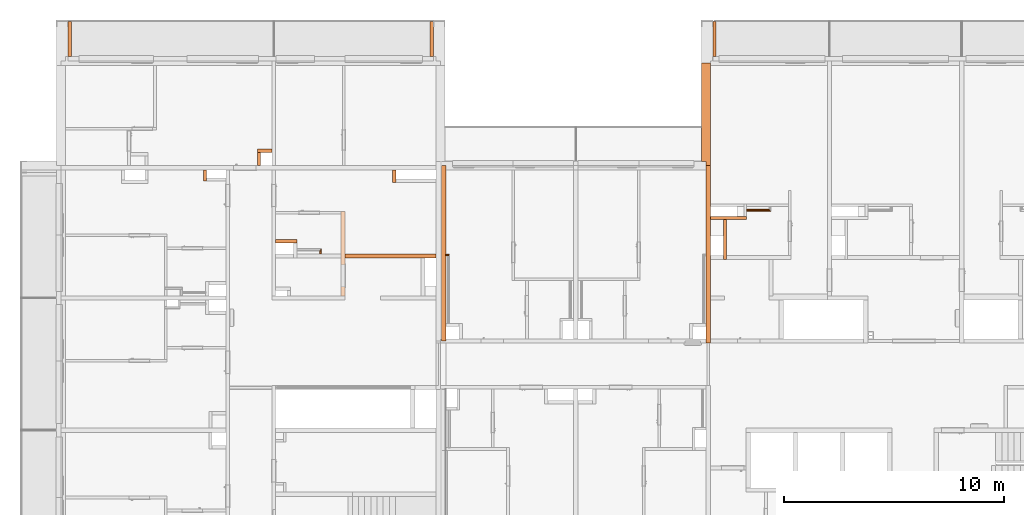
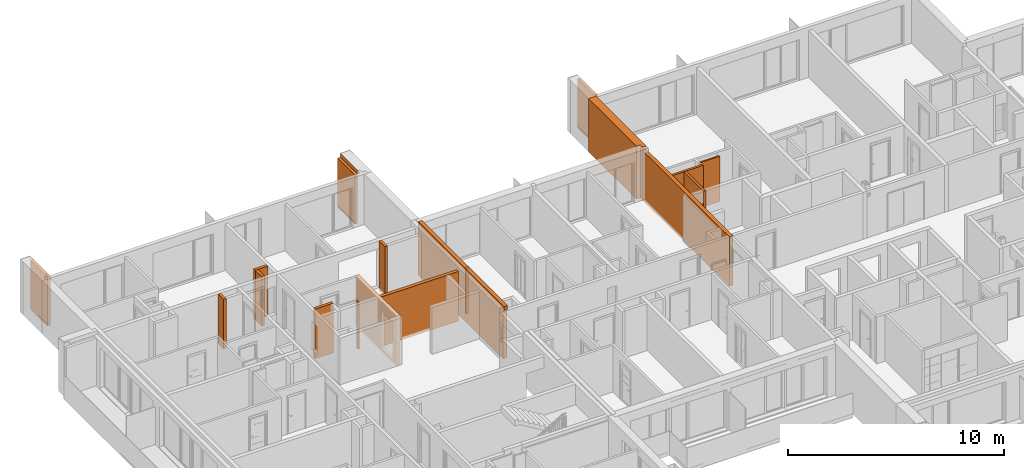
# One storey, part 62 of 66: 17 proxies, 1 opening, plus 1 element that does not belong to this part.
"""IFC2X3 building model written with IfcOpenShell, lengths in millimetres."""

from ifc_helpers import new_model, entity, si_unit, converted_unit, derived_unit, money_unit, direction, frame, origin_with_axes, origin_2d_with_axis, place, context, subcontext, project, spatial, rectangle, extrude, faceted_brep, material, material_list, type_object, element, save


model = new_model("IFC2X3")

# Units and contexts
model_context = context("Model", 3, precision=0.01, world=origin_with_axes(), true_north=direction((0.34421633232, 0.938890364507)))
body_context = subcontext(model_context, "Body", "Model", "MODEL_VIEW")
ifc_project = project(units=[si_unit("LENGTHUNIT", "METRE", prefix="MILLI"), si_unit("AREAUNIT", "SQUARE_METRE"), si_unit("VOLUMEUNIT", "CUBIC_METRE"), converted_unit("PLANEANGLEUNIT", "DEGREE", entity("IfcPlaneAngleMeasure", 0.0174532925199), si_unit("PLANEANGLEUNIT", "RADIAN"), dimensions=[0, 0, 0, 0, 0, 0, 0]), si_unit("SOLIDANGLEUNIT", "STERADIAN"), money_unit("USD"), converted_unit("TIMEUNIT", "Year", entity("IfcTimeMeasure", 31556926.0), si_unit("TIMEUNIT", "SECOND"), dimensions=[0, 0, 1, 0, 0, 0, 0]), si_unit("MASSUNIT", "GRAM", prefix="KILO"), si_unit("THERMODYNAMICTEMPERATUREUNIT", "DEGREE_CELSIUS"), si_unit("LUMINOUSINTENSITYUNIT", "LUMEN"), si_unit("ENERGYUNIT", "JOULE", prefix="MEGA"), derived_unit("THERMALCONDUCTANCEUNIT", [(si_unit("POWERUNIT", "WATT"), 1), (si_unit("LENGTHUNIT", "METRE"), -1), (si_unit("THERMODYNAMICTEMPERATUREUNIT", "KELVIN"), -1)]), derived_unit("SPECIFICHEATCAPACITYUNIT", [(si_unit("ENERGYUNIT", "JOULE"), 1), (si_unit("MASSUNIT", "GRAM", prefix="KILO"), -1), (si_unit("THERMODYNAMICTEMPERATUREUNIT", "KELVIN"), -1)]), derived_unit("MASSDENSITYUNIT", [(si_unit("MASSUNIT", "GRAM", prefix="KILO"), 1), (si_unit("VOLUMEUNIT", "CUBIC_METRE"), -1)])], contexts=[model_context])

# Site, building, storey
site_placement = place(None, origin_with_axes())
site = spatial("IfcSite", under=ifc_project, at=site_placement, Name="USTRONIE MORSKIE", CompositionType="ELEMENT")
building_placement = place(site_placement, origin_with_axes())
building = spatial("IfcBuilding", under=site, at=building_placement, Name="Budynek", CompositionType="ELEMENT")
storey_placement = place(building_placement, frame((0.0, 0.0, 10000.0), z_axis=(0.0, 0.0, 1.0), x_axis=(1.0, 0.0, 0.0)))
storey = spatial("IfcBuildingStorey", under=building, at=storey_placement, Name="PIĘTRO 3", CompositionType="ELEMENT", Elevation=10000.0)

# Proxies
ifc_material_1 = material(Name="Bloczki silikatowe")
building_element_proxy_type_1 = type_object("IfcBuildingElementProxyType", Name="Bloczki silikatowe 120", PredefinedType="NOTDEFINED")
proxy_1_placement = place(storey_placement, frame((380077.924326, 742431.199937, -160.0), z_axis=(0.0, 0.0, 1.0), x_axis=(0.0, -1.0, 0.0)))
element("IfcBuildingElementProxy", 1, at=proxy_1_placement, inside=storey, type_object=building_element_proxy_type_1, material=ifc_material_1, Name="SW-04", context=body_context, shape_type="Brep", body=[
    faceted_brep([(1890.00090117, 60.0, 0.0), (1890.00090117, -60.0, 0.0), (59.9999999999, -60.0, 0.0), (59.9999999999, 60.0, 0.0), (1890.00090117, 60.0, 2800.0), (1890.00090117, -60.0, 2800.0), (59.9999999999, -60.0, 2800.0), (59.9999999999, 60.0, 2800.0)], [[[0, 1, 2, 3]], [[1, 0, 4, 5]], [[1, 5, 6, 2]], [[7, 3, 2, 6]], [[4, 0, 3, 7]], [[5, 4, 7, 6]]]),
])
proxy_2_placement = place(storey_placement, frame((379317.920919, 742431.199937, -160.0), z_axis=(0.0, 0.0, 1.0), x_axis=(1.0, 0.0, 0.0)))
element("IfcBuildingElementProxy", 2, at=proxy_2_placement, inside=storey, type_object=building_element_proxy_type_1, material=ifc_material_1, Name="SW-04", context=body_context, shape_type="Brep", body=[
    faceted_brep([(1740.0, 59.9999999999, 0.0), (1740.0, -59.9999999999, 0.0), (100.0, -59.9999999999, 0.0), (100.0, 59.9999999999, 0.0), (1740.0, 59.9999999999, 2800.0), (1740.0, -59.9999999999, 2800.0), (100.0, -59.9999999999, 2800.0), (100.0, 59.9999999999, 2800.0)], [[[0, 1, 2, 3]], [[1, 0, 4, 5]], [[1, 5, 6, 2]], [[7, 3, 2, 6]], [[4, 0, 3, 7]], [[5, 4, 7, 6]]]),
])
ifc_material_2 = material(Name="Tynk zewnętrzny")
ifc_material_3 = material(Name="Wełna ELEW")
ifc_material_4 = material(Name="Beton konstrukcyjny B25")
ifc_material_list_1 = material_list([ifc_material_2, ifc_material_3, ifc_material_4])
building_element_proxy_type_2 = type_object("IfcBuildingElementProxyType", Name="20+20 410", PredefinedType="NOTDEFINED")
proxy_3_placement = place(storey_placement, frame((379317.920919, 744701.213046, -160.0), z_axis=(0.0, 0.0, 1.0), x_axis=(0.0, 1.0, 0.0)))
element("IfcBuildingElementProxy", 3, at=proxy_3_placement, inside=storey, type_object=building_element_proxy_type_2, material=ifc_material_list_1, Name="SZ-01", context=body_context, shape_type="Brep", body=[
    faceted_brep([(1899.98108936, 300.0, 110.0), (1899.98108936, 300.0, 0.0), (4749.98599028, 300.0, 0.0), (4749.98599028, 300.0, 3000.0), (309.986276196, 300.0, 3000.0), (309.986276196, 300.0, 110.0), (1899.98108936, 310.0, 110.0), (1899.98108936, 310.0, 0.0), (4749.98599028, 310.0, 0.0), (4749.98599028, 310.0, 3000.0), (309.986276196, 310.0, 3000.0), (309.986276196, 310.0, 110.0)], [[[0, 1, 2, 3, 4, 5]], [[0, 6, 7, 1]], [[1, 7, 8, 2]], [[2, 8, 9, 3]], [[9, 10, 4, 3]], [[11, 5, 4, 10]], [[0, 5, 11, 6]], [[6, 11, 10, 9, 8, 7]]]),
    faceted_brep([(4749.98599028, 300.0, 3000.0), (299.986276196, 300.0, 3000.0), (299.986276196, 100.0, 3000.0), (4749.98599028, 100.0, 3000.0), (299.986276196, 300.0, 0.0), (4749.98599028, 300.0, 0.0), (299.986276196, 100.0, 0.0), (4749.98599028, 100.0, 0.0)], [[[0, 1, 2, 3]], [[4, 1, 0, 5]], [[6, 2, 1, 4]], [[3, 2, 6, 7]], [[7, 5, 0, 3]], [[7, 6, 4, 5]]]),
    faceted_brep([(99.9862761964, 100.0, 3000.0), (99.9862761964, -100.0, 3000.0), (4749.98599028, -100.0, 3000.0), (4749.98599028, 100.0, 3000.0), (99.9862761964, -100.0, 2800.0), (99.9862761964, 100.0, 2800.0), (100.000114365, -100.0, 2800.0), (100.000114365, -100.0, 0.0), (4749.98599028, -100.0, 0.0), (4749.98599028, 100.0, 0.0), (99.999885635, 100.0, 0.0), (99.999885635, 100.0, 2800.0)], [[[0, 1, 2, 3]], [[4, 1, 0, 5]], [[1, 4, 6, 7, 8, 2]], [[9, 3, 2, 8]], [[5, 0, 3, 9, 10, 11]], [[4, 5, 11, 6]], [[7, 6, 11, 10]], [[7, 10, 9, 8]]]),
])
building_element_proxy_type_3 = type_object("IfcBuildingElementProxyType", Name="Bloczki silikatowe 180", PredefinedType="NOTDEFINED")
proxy_4_placement = place(storey_placement, frame((367067.920919, 740711.179476, -160.0), z_axis=(0.0, 0.0, 1.0), x_axis=(-1.0, 0.0, 0.0)))
element("IfcBuildingElementProxy", 4, at=proxy_4_placement, inside=storey, type_object=building_element_proxy_type_3, material=ifc_material_1, Name="SW-02", context=body_context, shape_type="Brep", body=[
    faceted_brep([(100.0, -90.0, 0.0), (4220.00004519, -90.0, 0.0), (4220.00004519, -90.0, 2800.0), (100.0, -90.0, 2800.0), (100.0, 90.0, 0.0), (4220.00004519, 90.0, 0.0), (4220.00004519, 90.0, 2800.0), (100.0, 90.0, 2800.0)], [[[0, 1, 2, 3]], [[4, 5, 1, 0]], [[5, 6, 2, 1]], [[3, 2, 6, 7]], [[0, 3, 7, 4]], [[7, 6, 5, 4]]]),
])

# Proxy, opening
proxy_5_placement = place(storey_placement, frame((362757.920874, 742661.199128, -160.0), z_axis=(0.0, 0.0, 1.0), x_axis=(0.0, -1.0, 0.0)))
proxy_5 = element("IfcBuildingElementProxy", 5, at=proxy_5_placement, inside=storey, type_object=building_element_proxy_type_3, material=ifc_material_1, Name="SW-02", context=body_context, shape_type="Brep", body=[
    faceted_brep([(-59.9999999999, -90.0, 2800.0), (3760.00009205, -90.0, 2800.0), (3760.00009205, 90.0, 2800.0), (-59.9999999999, 90.0, 2800.0), (-59.9999999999, -90.0, 0.0), (3760.00009205, -90.0, 0.0), (3760.00009205, 90.0, 0.0), (-59.9999999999, 90.0, 0.0)], [[[0, 1, 2, 3]], [[4, 5, 1, 0]], [[6, 2, 1, 5]], [[3, 2, 6, 7]], [[7, 4, 0, 3]], [[7, 6, 5, 4]]]),
])
opening_placement = place(proxy_5_placement, frame((2850.01965208, 0.0, 160.0), z_axis=(0.0, 0.0, 1.0), x_axis=(1.0, 0.0, 0.0)))
element("IfcOpeningElement", 6, at=opening_placement, cuts=proxy_5, Name="Dw.2", context=body_context, shape_type="SweptSolid", body=[
    extrude(rectangle(XDim=1020.0, YDim=2120.0, at=origin_2d_with_axis()), frame((0.0, 180.0, 1060.0), z_axis=(0.0, 1.0, 0.0), x_axis=(-1.0, 0.0, 0.0)), (0.0, 0.0, -1.0), 540.0),
    extrude(rectangle(XDim=1094.0, YDim=2227.0, at=origin_2d_with_axis()), frame((0.0, 90.0, 1113.5), z_axis=(0.0, 1.0, 0.0), x_axis=(-1.0, 0.0, 0.0)), (0.0, 0.0, 1.0), 180.0),
])

# Proxies
ifc_material_5 = material(Name="Płyta GK")
ifc_material_6 = material(Name="-Pustka powietrzna")
ifc_material_list_2 = material_list([ifc_material_5, ifc_material_5, ifc_material_6])
building_element_proxy_type_4 = type_object("IfcBuildingElementProxyType", Name="330-SD GK 2-warstwy 75", PredefinedType="NOTDEFINED")
proxy_6_placement = place(storey_placement, frame((361742.922714, 741001.179476, -180.0), z_axis=(0.0, 0.0, 1.0), x_axis=(0.0, -1.0, 0.0)))
element("IfcBuildingElementProxy", 7, at=proxy_6_placement, inside=storey, type_object=building_element_proxy_type_4, material=ifc_material_list_2, Name="Ściana-009", context=body_context, shape_type="Brep", body=[
    faceted_brep([(200.0, 25.0, 165.0), (-12.5, 25.0, 165.0), (-12.5, 25.0, 2820.0), (200.0, 25.0, 2820.0), (-12.5, 12.5, 165.0), (200.0, 12.5, 165.0), (-12.5, 12.5, 2820.0), (200.0, 12.5, 2820.0)], [[[0, 1, 2, 3]], [[4, 1, 0, 5]], [[1, 4, 6, 2]], [[6, 7, 3, 2]], [[5, 0, 3, 7]], [[4, 5, 7, 6]]]),
    faceted_brep([(200.0, 12.5, 165.0), (0.0, 12.5, 165.0), (0.0, 12.5, 2820.0), (200.0, 12.5, 2820.0), (0.0, 0.0, 165.0), (200.0, 0.0, 165.0), (0.0, 0.0, 2820.0), (200.0, 0.0, 2820.0)], [[[0, 1, 2, 3]], [[4, 1, 0, 5]], [[1, 4, 6, 2]], [[6, 7, 3, 2]], [[5, 0, 3, 7]], [[4, 5, 7, 6]]]),
    faceted_brep([(200.0, 0.0, 180.0), (50.0, 0.0, 180.0), (50.0, 0.0, 2820.0), (200.0, 0.0, 2820.0), (50.0, -50.0, 180.0), (200.0, -50.0, 180.0), (50.0, -50.0, 2820.0), (200.0, -50.0, 2820.0)], [[[0, 1, 2, 3]], [[4, 1, 0, 5]], [[1, 4, 6, 2]], [[6, 7, 3, 2]], [[5, 0, 3, 7]], [[4, 5, 7, 6]]]),
])
proxy_7_placement = place(storey_placement, frame((382132.920919, 742771.199021, -160.0), z_axis=(0.0, 0.0, 1.0), x_axis=(-1.0, 0.0, 0.0)))
element("IfcBuildingElementProxy", 8, at=proxy_7_placement, inside=storey, type_object=building_element_proxy_type_4, material=ifc_material_list_2, Name="Ściana-009", context=body_context, shape_type="Brep", body=[
    faceted_brep([(-25.0, 25.0, 145.0), (-25.0, 12.5, 145.0), (-25.0, 12.5, 2710.0), (-25.0, 25.0, 2710.0), (1075.0, 12.5, 145.0), (1075.0, 25.0, 145.0), (1075.0, 12.5, 2710.0), (1075.0, 25.0, 2710.0)], [[[0, 1, 2, 3]], [[4, 1, 0, 5]], [[1, 4, 6, 2]], [[6, 7, 3, 2]], [[5, 0, 3, 7]], [[4, 5, 7, 6]]]),
    faceted_brep([(-12.5, 12.5, 145.0), (-12.5, 0.0, 145.0), (-12.5, 0.0, 2710.0), (-12.5, 12.5, 2710.0), (1075.0, 0.0, 145.0), (1075.0, 12.5, 145.0), (1075.0, 0.0, 2710.0), (1075.0, 12.5, 2710.0)], [[[0, 1, 2, 3]], [[4, 1, 0, 5]], [[1, 4, 6, 2]], [[6, 7, 3, 2]], [[5, 0, 3, 7]], [[4, 5, 7, 6]]]),
    faceted_brep([(0.0, 0.0, 160.0), (0.0, -50.0, 160.0), (0.0, -50.0, 2710.0), (0.0, 0.0, 2710.0), (1075.0, -50.0, 160.0), (1075.0, 0.0, 160.0), (1075.0, -50.0, 2710.0), (1075.0, 0.0, 2710.0)], [[[0, 1, 2, 3]], [[4, 1, 0, 5]], [[1, 4, 6, 2]], [[6, 7, 3, 2]], [[5, 0, 3, 7]], [[4, 5, 7, 6]]]),
])
proxy_8_placement = place(storey_placement, frame((367317.920919, 740771.202288, -180.0), z_axis=(0.0, 0.0, 1.0), x_axis=(1.0, 0.0, 0.0)))
element("IfcBuildingElementProxy", 9, at=proxy_8_placement, inside=storey, type_object=building_element_proxy_type_4, material=ifc_material_list_2, Name="Ściana-009", context=body_context, shape_type="Brep", body=[
    faceted_brep([(254.977879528, 12.5, 165.0), (254.977879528, 25.0, 165.0), (254.977879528, 25.0, 2820.0), (254.977879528, 12.5, 2820.0), (100.0, 25.0, 165.0), (100.0, 12.5, 165.0), (100.0, 25.0, 2820.0), (100.0, 12.5, 2820.0)], [[[0, 1, 2, 3]], [[4, 1, 0, 5]], [[1, 4, 6, 2]], [[2, 6, 7, 3]], [[5, 0, 3, 7]], [[4, 5, 7, 6]]]),
    faceted_brep([(242.477879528, 0.0, 165.0), (242.477879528, 12.5, 165.0), (242.477879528, 12.5, 2820.0), (242.477879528, 0.0, 2820.0), (100.0, 12.5, 165.0), (100.0, 0.0, 165.0), (100.0, 12.5, 2820.0), (100.0, 0.0, 2820.0)], [[[0, 1, 2, 3]], [[4, 1, 0, 5]], [[1, 4, 6, 2]], [[2, 6, 7, 3]], [[5, 0, 3, 7]], [[4, 5, 7, 6]]]),
    faceted_brep([(229.977879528, -50.0, 180.0), (229.977879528, 0.0, 180.0), (229.977879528, 0.0, 2820.0), (229.977879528, -50.0, 2820.0), (100.0, 0.0, 180.0), (100.0, -50.0, 180.0), (100.0, 0.0, 2820.0), (100.0, -50.0, 2820.0)], [[[0, 1, 2, 3]], [[4, 1, 0, 5]], [[1, 4, 6, 2]], [[2, 6, 7, 3]], [[5, 0, 3, 7]], [[4, 5, 7, 6]]]),
])
building_element_proxy_type_5 = type_object("IfcBuildingElementProxyType", Name="Bloczki silikatowe 150", PredefinedType="NOTDEFINED")
proxy_9_placement = place(storey_placement, frame((365097.901749, 744141.199036, -160.0), z_axis=(0.0, 0.0, 1.0), x_axis=(0.0, 1.0, 0.0)))
element("IfcBuildingElementProxy", 10, at=proxy_9_placement, inside=storey, type_object=building_element_proxy_type_5, material=ifc_material_1, Name="SW-03", context=body_context, shape_type="Brep", body=[
    faceted_brep([(459.999999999, 90.0, 0.0), (459.999999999, -60.0, 0.0), (-90.0, -60.0, 0.0), (-90.0, 90.0, 0.0), (459.999999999, 90.0, 2800.0), (459.999999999, -60.0, 2800.0), (-90.0, -60.0, 2800.0), (-90.0, 90.0, 2800.0)], [[[0, 1, 2, 3]], [[1, 0, 4, 5]], [[1, 5, 6, 2]], [[7, 3, 2, 6]], [[4, 0, 3, 7]], [[5, 4, 7, 6]]]),
])
proxy_10_placement = place(storey_placement, frame((356492.920018, 744701.199973, -160.0), z_axis=(0.0, 0.0, 1.0), x_axis=(0.0, -1.0, 0.0)))
element("IfcBuildingElementProxy", 11, at=proxy_10_placement, inside=storey, type_object=building_element_proxy_type_5, material=ifc_material_1, Name="SW-03", context=body_context, shape_type="Brep", body=[
    faceted_brep([(600.000936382, -75.0, 2800.0), (600.000936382, 75.0, 2800.0), (100.000936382, 75.0, 2800.0), (100.000936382, -75.0, 2800.0), (600.000936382, -75.0, 0.0), (600.000936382, 75.0, 0.0), (100.000936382, 75.0, 0.0), (100.000936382, -75.0, 0.0)], [[[0, 1, 2, 3]], [[1, 0, 4, 5]], [[1, 5, 6, 2]], [[7, 3, 2, 6]], [[4, 0, 3, 7]], [[5, 4, 7, 6]]]),
])
proxy_11_placement = place(storey_placement, frame((359617.921834, 745476.199937, -160.0), z_axis=(0.0, 0.0, 1.0), x_axis=(-1.0, 0.0, 0.0)))
element("IfcBuildingElementProxy", 12, at=proxy_11_placement, inside=storey, type_object=building_element_proxy_type_5, material=ifc_material_1, Name="SW-03", context=body_context, shape_type="Brep", body=[
    faceted_brep([(750.000084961, -75.0, 2800.0), (750.000084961, 75.0, 2800.0), (80.0009363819, 75.0, 2800.0), (80.0009363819, -75.0, 2800.0), (750.000084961, -75.0, 0.0), (750.000084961, 75.0, 0.0), (80.0009363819, 75.0, 0.0), (80.0009363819, -75.0, 0.0)], [[[0, 1, 2, 3]], [[1, 0, 4, 5]], [[1, 5, 6, 2]], [[7, 3, 2, 6]], [[4, 0, 3, 7]], [[5, 4, 7, 6]]]),
])
proxy_12_placement = place(storey_placement, frame((358942.921749, 745476.199937, -160.0), z_axis=(0.0, 0.0, 1.0), x_axis=(0.0, -1.0, 0.0)))
element("IfcBuildingElementProxy", 13, at=proxy_12_placement, inside=storey, type_object=building_element_proxy_type_5, material=ifc_material_1, Name="SW-03", context=body_context, shape_type="Brep", body=[
    faceted_brep([(675.00090117, -74.9999999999, 2800.0), (675.00090117, 75.0000000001, 2800.0), (75.0, 75.0, 2800.0), (75.0, -75.0, 2800.0), (675.00090117, -74.9999999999, 0.0), (675.00090117, 75.0000000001, 0.0), (75.0, 75.0, 0.0), (75.0, -75.0, 0.0)], [[[0, 1, 2, 3]], [[1, 0, 4, 5]], [[1, 5, 6, 2]], [[7, 3, 2, 6]], [[4, 0, 3, 7]], [[5, 4, 7, 6]]]),
])
proxy_13_placement = place(storey_placement, frame((360592.922714, 741376.180377, -160.0), z_axis=(0.0, 0.0, 1.0), x_axis=(-1.0, 0.0, 0.0)))
element("IfcBuildingElementProxy", 14, at=proxy_13_placement, inside=storey, type_object=building_element_proxy_type_5, material=ifc_material_1, Name="SW-03", context=body_context, shape_type="Brep", body=[
    faceted_brep([(895.001816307, -75.0, 2800.0), (895.001816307, 75.0, 2800.0), (-75.0, 75.0, 2800.0), (-75.0, -75.0, 2800.0), (895.001816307, -75.0, 0.0), (895.001816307, 75.0, 0.0), (-75.0, 75.0, 0.0), (-75.0, -75.0, 0.0)], [[[0, 1, 2, 3]], [[1, 0, 4, 5]], [[1, 5, 6, 2]], [[7, 3, 2, 6]], [[4, 0, 3, 7]], [[5, 4, 7, 6]]]),
])
building_element_proxy_type_6 = type_object("IfcBuildingElementProxyType", Name="Beton konstrukcyjny B25 200", PredefinedType="NOTDEFINED")
proxy_14_placement = place(storey_placement, frame((367317.920919, 744701.199036, -160.0), z_axis=(0.0, 0.0, 1.0), x_axis=(0.0, -1.0, 0.0)))
element("IfcBuildingElementProxy", 15, at=proxy_14_placement, inside=storey, type_object=building_element_proxy_type_6, material=ifc_material_4, Name="SW-01", context=body_context, shape_type="Brep", body=[
    faceted_brep([(7850.0, 100.0, 2800.0), (7770.0, 100.0, 2800.0), (7770.0, 100.0, 0.0), (-100.000400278, 100.0, 0.0), (-100.000400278, 100.0, 3000.0), (7850.0, 100.0, 3000.0), (7770.0, -100.0, 2800.0), (7850.0, -100.0, 2800.0), (7770.0, -100.0, 0.0), (-100.000171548, -100.0, 0.0), (-100.000171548, -100.0, 3000.0), (7850.0, -100.0, 3000.0)], [[[0, 1, 2, 3, 4, 5]], [[6, 1, 0, 7]], [[8, 2, 1, 6]], [[3, 2, 8, 9]], [[9, 10, 4, 3]], [[4, 10, 11, 5]], [[11, 7, 0, 5]], [[8, 6, 7, 11, 10, 9]]]),
])
proxy_15_placement = place(storey_placement, frame((379317.920919, 744701.213046, -160.0), z_axis=(0.0, 0.0, 1.0), x_axis=(0.0, -1.0, 0.0)))
element("IfcBuildingElementProxy", 16, at=proxy_15_placement, inside=storey, type_object=building_element_proxy_type_6, material=ifc_material_4, Name="SW-01", context=body_context, shape_type="Brep", body=[
    faceted_brep([(-100.000114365, 100.0, 0.0), (7930.01400972, 100.0, 0.0), (7930.01400972, -100.0, 0.0), (-99.999885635, -100.0, 0.0), (-100.000114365, 100.0, 2800.0), (7930.01400972, 100.0, 2800.0), (7930.01400972, -100.0, 2800.0), (-99.999885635, -100.0, 2800.0)], [[[0, 1, 2, 3]], [[4, 5, 1, 0]], [[6, 2, 1, 5]], [[3, 2, 6, 7]], [[7, 4, 0, 3]], [[7, 6, 5, 4]]]),
])
ifc_material_7 = material(Name="Laminat")
building_element_proxy_type_7 = type_object("IfcBuildingElementProxyType", Name="Laminat 150", PredefinedType="NOTDEFINED")
proxy_16_placement = place(storey_placement, frame((350353.053848, 749761.196429, -160.0), z_axis=(0.0, 0.0, 1.0), x_axis=(9.14543762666e-06, 0.999999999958, 0.0)))
element("IfcBuildingElementProxy", 17, at=proxy_16_placement, inside=storey, type_object=building_element_proxy_type_7, material=ifc_material_7, Name="SW-03", context=body_context, shape_type="Brep", body=[
    faceted_brep([(1589.8495546, 74.9999999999, 9.99999623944), (1589.84810376, 74.9999999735, 2789.99999183), (1589.85083756, -74.9999999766, 2789.99999183), (1589.8495546, -75.0, 10.0000202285), (0.0, 74.9999999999, 9.99999623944), (0.0, 75.0, 2789.99999183), (4.99980812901, 75.0, 109.999995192), (4.99980812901, 75.0, 84.9999951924), (1547.49980813, 74.9999999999, 84.9999951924), (1547.49980813, 74.9999999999, 14.9999951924), (1572.49971536, 74.9999999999, 14.9999951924), (1572.49971536, 74.9999999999, 109.999995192), (0.0, -75.0, 2789.99999183), (0.0, -75.0, 9.99999638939), (1572.49971536, -75.0, 14.9999951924), (1547.49980813, -75.0, 14.9999951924), (1547.49980813, -75.0, 84.9999951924), (4.99980812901, -75.0, 84.9999951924), (4.99980812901, -75.0, 109.999995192), (1572.49971536, -75.0, 109.999995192)], [[[0, 1, 2, 3]], [[4, 5, 1, 0], [6, 7, 8, 9, 10, 11]], [[5, 12, 2, 1]], [[3, 2, 12, 13], [14, 15, 16, 17, 18, 19]], [[0, 3, 13, 4]], [[13, 12, 5, 4]], [[17, 7, 6, 18]], [[16, 8, 7, 17]], [[15, 9, 8, 16]], [[14, 10, 9, 15]], [[19, 11, 10, 14]], [[18, 6, 11, 19]]]),
])
proxy_17_placement = place(storey_placement, frame((379602.787991, 749761.04617, -160.0), z_axis=(0.0, 0.0, 1.0), x_axis=(-9.14543764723e-06, 0.999999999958, 0.0)))
element("IfcBuildingElementProxy", 18, at=proxy_17_placement, inside=storey, type_object=building_element_proxy_type_7, material=ifc_material_7, Name="SW-03", context=body_context, shape_type="Brep", body=[
    faceted_brep([(1589.99972369, 74.9999999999, 10.0000009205), (0.0, 75.0, 9.99999742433), (-0.000681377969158, 74.9999999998, 2789.99999183), (1589.99981682, 74.9999999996, 2789.99999183), (1572.49971536, 74.9999999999, 109.999995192), (4.99980812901, 75.0, 109.999995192), (4.99980812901, 75.0, 84.9999951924), (1547.49980813, 75.0, 84.9999951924), (1547.49980813, 75.0, 14.9999951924), (1572.49971536, 74.9999999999, 14.9999951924), (0.0, -75.0, 9.99999740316), (1589.99981682, -75.0, 10.0000009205), (0.0, -75.0, 2789.99999183), (1589.99981682, -75.0, 2789.99999183), (4.99980812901, -75.0, 109.999995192), (1572.49971536, -75.0, 109.999995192), (4.99980812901, -75.0, 84.9999951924), (1547.49980813, -75.0, 84.9999951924), (1547.49980813, -75.0, 14.9999951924), (1572.49971536, -75.0, 14.9999951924)], [[[0, 1, 2, 3], [4, 5, 6, 7, 8, 9]], [[10, 1, 0, 11]], [[12, 2, 1, 10]], [[13, 3, 2, 12]], [[11, 0, 3, 13]], [[14, 5, 4, 15]], [[16, 6, 5, 14]], [[17, 7, 6, 16]], [[18, 8, 7, 17]], [[19, 9, 8, 18]], [[15, 4, 9, 19]], [[10, 11, 13, 12], [19, 18, 17, 16, 14, 15]]]),
])
proxy_18_placement = place(storey_placement, frame((366783.053847, 749761.04617, -160.0), z_axis=(0.0, 0.0, 1.0), x_axis=(9.1454376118e-06, 0.999999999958, 0.0)))
element("IfcBuildingElementProxy", 19, at=proxy_18_placement, inside=storey, type_object=building_element_proxy_type_7, material=ifc_material_7, Name="SW-03", context=body_context, shape_type="Brep", body=[
    faceted_brep([(0.0, -74.7341442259, 3000.00002271), (1589.99981677, -74.7050617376, 3000.00002271), (1589.99981677, -74.7050617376, 2789.99999183), (0.150947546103, -74.7341414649, 2789.99999183), (0.151431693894, -74.734141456, 2800.00001425), (0.0, -74.7341442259, 2800.00001423), (1589.99981677, -75.0, 3000.0), (0.0, -75.0, 3000.0), (1589.99980956, 75.0, 2789.99999183), (1589.99971409, -75.0, 9.99999623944), (1589.99971409, 75.0, 9.99999623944), (0.148208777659, 75.0, 2789.99999183), (0.14869292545, 75.0, 2800.00001425), (0.0, 75.0, 2799.99999896), (0.0, 75.0, 9.99999638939), (0.0, -75.0, 9.99999623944), (1547.49980813, -75.0, 84.9999951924), (4.99980812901, -75.0, 84.9999951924), (4.99980812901, -75.0, 109.999995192), (1572.49971536, -75.0, 109.999995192), (1572.49971536, -75.0, 14.9999951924), (1547.49980813, -75.0, 14.9999951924), (1547.49980813, 75.0, 84.9999951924), (1547.49980813, 75.0, 14.9999951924), (1572.49971536, 75.0, 14.9999951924), (1572.49971536, 75.0, 109.999995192), (4.99980812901, 75.0, 109.999995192), (4.99980812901, 75.0, 84.9999951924)], [[[0, 1, 2, 3, 4, 5]], [[6, 1, 0, 7]], [[8, 2, 1, 6, 9, 10]], [[3, 2, 8, 11]], [[11, 12, 4, 3]], [[5, 4, 12, 13]], [[0, 5, 13, 14, 15, 7]], [[7, 15, 9, 6], [16, 17, 18, 19, 20, 21]], [[14, 10, 9, 15]], [[12, 11, 8, 10, 14, 13], [22, 23, 24, 25, 26, 27]], [[27, 17, 16, 22]], [[26, 18, 17, 27]], [[25, 19, 18, 26]], [[24, 20, 19, 25]], [[23, 21, 20, 24]], [[22, 16, 21, 23]]]),
])

save(model, "model.ifc")
